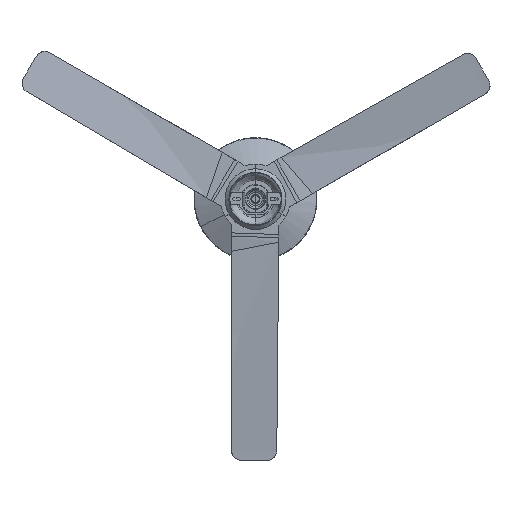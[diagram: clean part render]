
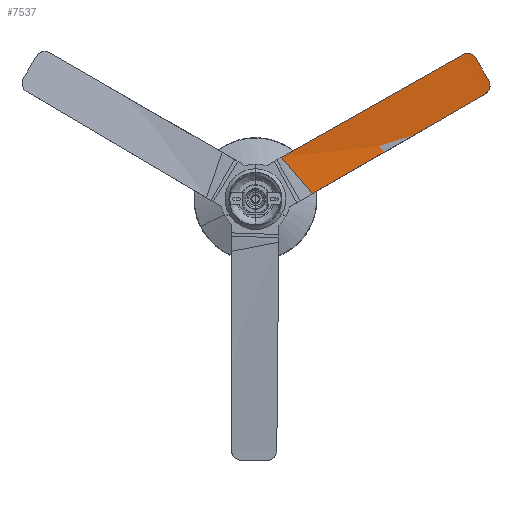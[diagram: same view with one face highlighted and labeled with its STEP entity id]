
A CAD part, top view. The second image highlights one B-rep face of the part: STEP entity #7537.
In plain terms, the highlighted free-form (B-spline) face has degree [3, 1] with [6, 2] control points.
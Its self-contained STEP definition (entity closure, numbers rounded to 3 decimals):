
#39=B_SPLINE_SURFACE_WITH_KNOTS('',3,1,((#40259,#40260),(#40261,#40262),
(#40263,#40264),(#40265,#40266),(#40267,#40268),(#40269,#40270)),
 .UNSPECIFIED.,.F.,.F.,.F.,(4,1,1,4),(2,2),(0.,184.784,
369.567,542.804),(0.,119.831),.UNSPECIFIED.);
#7537=ADVANCED_FACE('',(#8347),#39,.T.);
#8347=FACE_OUTER_BOUND('',#9192,.T.);
#9192=EDGE_LOOP('',(#13471,#13472,#13473,#13474,#13475,#13476));
#13471=ORIENTED_EDGE('',*,*,#15629,.F.);
#13472=ORIENTED_EDGE('',*,*,#15613,.F.);
#13473=ORIENTED_EDGE('',*,*,#15630,.F.);
#13474=ORIENTED_EDGE('',*,*,#15628,.T.);
#13475=ORIENTED_EDGE('',*,*,#15631,.F.);
#13476=ORIENTED_EDGE('',*,*,#15624,.F.);
#15613=EDGE_CURVE('',#19642,#19597,#18239,.T.);
#15624=EDGE_CURVE('',#19598,#19643,#18250,.T.);
#15628=EDGE_CURVE('',#19645,#19644,#18254,.T.);
#15629=EDGE_CURVE('',#19597,#19598,#18255,.T.);
#15630=EDGE_CURVE('',#19645,#19642,#18256,.T.);
#15631=EDGE_CURVE('',#19643,#19644,#18257,.T.);
#18239=B_SPLINE_CURVE_WITH_KNOTS('',3,(#40598,#40599,#40600,#40601,#40602,
#40603,#40604,#40605,#40606,#40607,#40608,#40609,#40610,#40611,#40612,#40613,
#40614,#40615,#40616),.UNSPECIFIED.,.F.,.F.,(4,3,3,3,3,3,4),(0.,74.188,
162.294,248.417,344.474,423.855,496.831),
 .UNSPECIFIED.);
#18250=B_SPLINE_CURVE_WITH_KNOTS('',3,(#40681,#40682,#40683,#40684,#40685,
#40686),.UNSPECIFIED.,.F.,.F.,(4,2,4),(0.,260.467,520.938),
 .UNSPECIFIED.);
#18254=B_SPLINE_CURVE_WITH_KNOTS('',3,(#40697,#40698,#40699,#40700,#40701,
#40702),.UNSPECIFIED.,.F.,.F.,(4,2,4),(-63.426,-31.713,
0.),.UNSPECIFIED.);
#18255=B_SPLINE_CURVE_WITH_KNOTS('',1,(#40703,#40704),.UNSPECIFIED.,.F.,
 .F.,(2,2),(-119.505,0.),.UNSPECIFIED.);
#18256=B_SPLINE_CURVE_WITH_KNOTS('',3,(#40705,#40706,#40707,#40708,#40709,
#40710,#40711,#40712,#40713,#40714),.UNSPECIFIED.,.F.,.F.,(4,2,2,2,4),(-38.429,
-28.878,-19.216,-9.898,0.),.UNSPECIFIED.);
#18257=B_SPLINE_CURVE_WITH_KNOTS('',3,(#40715,#40716,#40717,#40718,#40719,
#40720,#40721,#40722,#40723,#40724),.UNSPECIFIED.,.F.,.F.,(4,2,2,2,4),(-36.898,
-27.437,-18.45,-9.02,0.),.UNSPECIFIED.);
#19597=VERTEX_POINT('',#40285);
#19598=VERTEX_POINT('',#40286);
#19642=VERTEX_POINT('',#40330);
#19643=VERTEX_POINT('',#40331);
#19644=VERTEX_POINT('',#40332);
#19645=VERTEX_POINT('',#40333);
#40259=CARTESIAN_POINT('',(11524.926,496.274,59.68));
#40260=CARTESIAN_POINT('',(11446.513,586.73,65.026));
#40261=CARTESIAN_POINT('',(11576.007,525.766,54.949));
#40262=CARTESIAN_POINT('',(11499.84,617.519,64.157));
#40263=CARTESIAN_POINT('',(11678.354,584.855,47.936));
#40264=CARTESIAN_POINT('',(11606.515,679.107,63.211));
#40265=CARTESIAN_POINT('',(11828.942,671.798,44.853));
#40266=CARTESIAN_POINT('',(11763.214,769.578,64.147));
#40267=CARTESIAN_POINT('',(11928.258,729.138,47.435));
#40268=CARTESIAN_POINT('',(11866.557,829.243,66.25));
#40269=CARTESIAN_POINT('',(11976.274,756.86,49.763));
#40270=CARTESIAN_POINT('',(11916.554,858.109,67.616));
#40285=CARTESIAN_POINT('',(11524.713,496.521,59.695));
#40286=CARTESIAN_POINT('',(11446.513,586.73,65.026));
#40330=CARTESIAN_POINT('',(11954.654,744.685,48.835));
#40331=CARTESIAN_POINT('',(11900.076,842.892,66.349));
#40332=CARTESIAN_POINT('',(11931.675,832.457,63.094));
#40333=CARTESIAN_POINT('',(11962.792,778.021,53.538));
#40598=CARTESIAN_POINT('',(11954.654,744.685,48.835));
#40599=CARTESIAN_POINT('',(11933.272,732.276,47.932));
#40600=CARTESIAN_POINT('',(11911.889,719.877,47.245));
#40601=CARTESIAN_POINT('',(11890.502,707.485,46.774));
#40602=CARTESIAN_POINT('',(11865.094,692.763,46.214));
#40603=CARTESIAN_POINT('',(11839.68,678.052,45.959));
#40604=CARTESIAN_POINT('',(11814.255,663.349,46.008));
#40605=CARTESIAN_POINT('',(11789.412,648.982,46.056));
#40606=CARTESIAN_POINT('',(11764.559,634.623,46.395));
#40607=CARTESIAN_POINT('',(11739.691,620.27,47.025));
#40608=CARTESIAN_POINT('',(11711.955,604.26,47.728));
#40609=CARTESIAN_POINT('',(11684.235,588.277,48.793));
#40610=CARTESIAN_POINT('',(11656.526,572.316,50.217));
#40611=CARTESIAN_POINT('',(11633.619,559.122,51.394));
#40612=CARTESIAN_POINT('',(11610.72,545.944,52.816));
#40613=CARTESIAN_POINT('',(11587.825,532.78,54.483));
#40614=CARTESIAN_POINT('',(11566.785,520.682,56.014));
#40615=CARTESIAN_POINT('',(11545.748,508.596,57.752));
#40616=CARTESIAN_POINT('',(11524.713,496.521,59.695));
#40681=CARTESIAN_POINT('',(11446.513,586.73,65.026));
#40682=CARTESIAN_POINT('',(11522.098,629.419,63.766));
#40683=CARTESIAN_POINT('',(11597.702,672.118,63.174));
#40684=CARTESIAN_POINT('',(11748.9,757.511,63.543));
#40685=CARTESIAN_POINT('',(11824.496,800.206,64.504));
#40686=CARTESIAN_POINT('',(11900.076,842.892,66.349));
#40697=CARTESIAN_POINT('',(11962.792,778.021,53.538));
#40698=CARTESIAN_POINT('',(11957.606,787.093,55.132));
#40699=CARTESIAN_POINT('',(11952.42,796.166,56.725));
#40700=CARTESIAN_POINT('',(11942.047,814.311,59.91));
#40701=CARTESIAN_POINT('',(11936.861,823.384,61.502));
#40702=CARTESIAN_POINT('',(11931.675,832.457,63.094));
#40703=CARTESIAN_POINT('',(11524.713,496.521,59.695));
#40704=CARTESIAN_POINT('',(11446.513,586.73,65.026));
#40705=CARTESIAN_POINT('',(11962.792,778.021,53.538));
#40706=CARTESIAN_POINT('',(11964.377,775.313,53.061));
#40707=CARTESIAN_POINT('',(11965.425,772.328,52.565));
#40708=CARTESIAN_POINT('',(11966.342,766.087,51.579));
#40709=CARTESIAN_POINT('',(11966.189,762.886,51.099));
#40710=CARTESIAN_POINT('',(11964.702,756.817,50.238));
#40711=CARTESIAN_POINT('',(11963.423,753.993,49.862));
#40712=CARTESIAN_POINT('',(11959.791,748.778,49.226));
#40713=CARTESIAN_POINT('',(11957.41,746.476,48.98));
#40714=CARTESIAN_POINT('',(11954.654,744.685,48.835));
#40715=CARTESIAN_POINT('',(11900.076,842.892,66.349));
#40716=CARTESIAN_POINT('',(11902.957,844.153,66.366));
#40717=CARTESIAN_POINT('',(11906.049,844.865,66.293));
#40718=CARTESIAN_POINT('',(11912.169,845.105,65.983));
#40719=CARTESIAN_POINT('',(11915.143,844.69,65.757));
#40720=CARTESIAN_POINT('',(11920.93,842.784,65.164));
#40721=CARTESIAN_POINT('',(11923.675,841.259,64.795));
#40722=CARTESIAN_POINT('',(11928.333,837.354,63.98));
#40723=CARTESIAN_POINT('',(11930.237,835.048,63.546));
#40724=CARTESIAN_POINT('',(11931.675,832.457,63.094));
